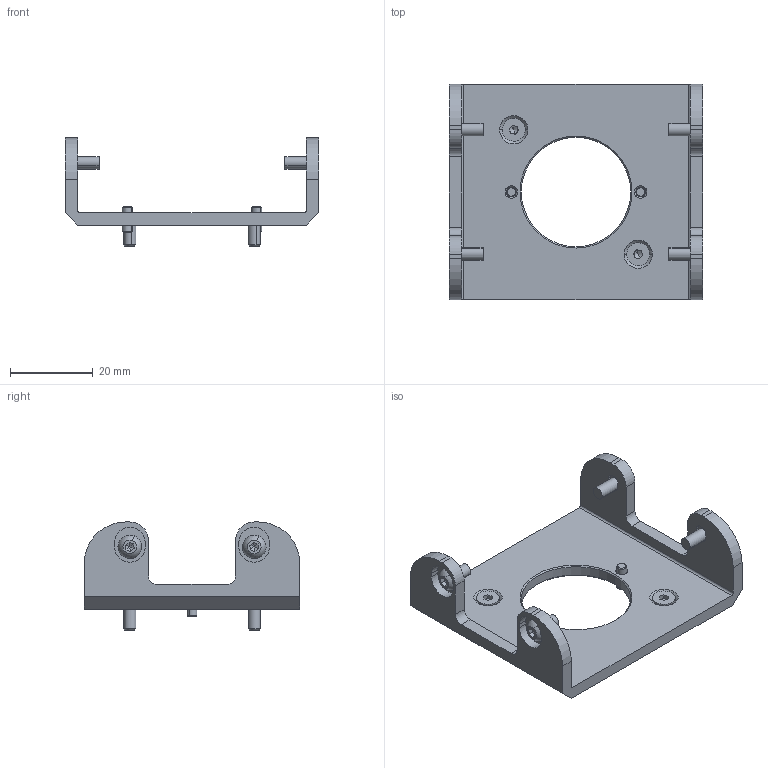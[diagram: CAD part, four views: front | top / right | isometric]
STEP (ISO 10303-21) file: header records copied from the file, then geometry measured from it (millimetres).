
FILE_DESCRIPTION (( 'STEP AP203' ), '1' );
FILE_NAME ('CSC1-C2.STEP', '2024-03-28T03:19:55', ( '' ), ( '' ), 'SwSTEP 2.0', 'SolidWorks 2021', '' );
FILE_SCHEMA (( 'CONFIG_CONTROL_DESIGN' ));
Length unit declared in the file: millimetre
Products named in the file (1): CSC1-C2
Bounding box: 61.2 x 52 x 26.04 mm (x, y, z)
Surface area: 9546.4 mm2 (no closed solid volume)
Topology: 0 solids, 15 shells, 267 faces, 1008 edges, 762 vertices
Faces by surface type: plane 159, cylinder 64, cone 32, sphere 8, bspline 4
Entity records: 12361 total; most frequent: CARTESIAN_POINT 3966, DIRECTION 1638, ORIENTED_EDGE 1556, EDGE_CURVE 1004, VERTEX_POINT 762, LINE 702, VECTOR 702, AXIS2_PLACEMENT_3D 468
